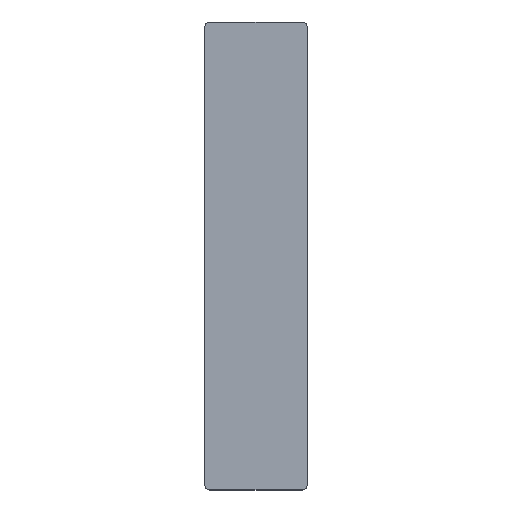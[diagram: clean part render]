
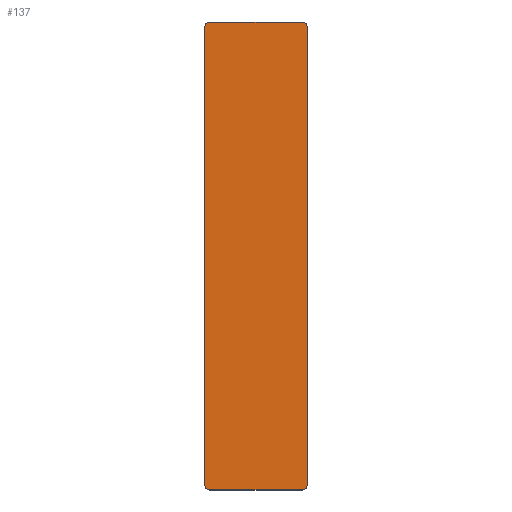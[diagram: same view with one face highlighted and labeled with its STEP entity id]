
A CAD part, top view. The second image highlights one B-rep face of the part: STEP entity #137.
In plain terms, the highlighted planar face has unit normal (0, 0, 1).
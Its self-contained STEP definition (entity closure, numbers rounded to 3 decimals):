
#21 = EDGE_CURVE('',#22,#24,#26,.T.);
#22 = VERTEX_POINT('',#23);
#23 = CARTESIAN_POINT('',(-10.5,-47.,-10.25));
#24 = VERTEX_POINT('',#25);
#25 = CARTESIAN_POINT('',(-10.5,47.,-10.25));
#26 = SURFACE_CURVE('',#27,(#31,#43),.PCURVE_S1.);
#27 = LINE('',#28,#29);
#28 = CARTESIAN_POINT('',(-10.5,-48.,-10.25));
#29 = VECTOR('',#30,1.);
#30 = DIRECTION('',(0.,1.,0.));
#31 = PCURVE('',#32,#37);
#32 = PLANE('',#33);
#33 = AXIS2_PLACEMENT_3D('',#34,#35,#36);
#34 = CARTESIAN_POINT('',(-10.5,-48.,-10.35));
#35 = DIRECTION('',(1.,0.,0.));
#36 = DIRECTION('',(0.,0.,1.));
#37 = DEFINITIONAL_REPRESENTATION('',(#38),#42);
#38 = LINE('',#39,#40);
#39 = CARTESIAN_POINT('',(0.1,0.));
#40 = VECTOR('',#41,1.);
#41 = DIRECTION('',(0.,-1.));
#42 = ( GEOMETRIC_REPRESENTATION_CONTEXT(2) 
PARAMETRIC_REPRESENTATION_CONTEXT() REPRESENTATION_CONTEXT('2D SPACE',''
  ) );
#43 = PCURVE('',#44,#49);
#44 = PLANE('',#45);
#45 = AXIS2_PLACEMENT_3D('',#46,#47,#48);
#46 = CARTESIAN_POINT('',(-10.5,-48.,-10.25));
#47 = DIRECTION('',(0.,0.,1.));
#48 = DIRECTION('',(1.,0.,-0.));
#49 = DEFINITIONAL_REPRESENTATION('',(#50),#54);
#50 = LINE('',#51,#52);
#51 = CARTESIAN_POINT('',(0.,0.));
#52 = VECTOR('',#53,1.);
#53 = DIRECTION('',(0.,1.));
#54 = ( GEOMETRIC_REPRESENTATION_CONTEXT(2) 
PARAMETRIC_REPRESENTATION_CONTEXT() REPRESENTATION_CONTEXT('2D SPACE',''
  ) );
#72 = CYLINDRICAL_SURFACE('',#73,1.);
#73 = AXIS2_PLACEMENT_3D('',#74,#75,#76);
#74 = CARTESIAN_POINT('',(-9.5,-47.,-10.35));
#75 = DIRECTION('',(0.,0.,1.));
#76 = DIRECTION('',(-1.,-0.,0.));
#126 = CYLINDRICAL_SURFACE('',#127,1.);
#127 = AXIS2_PLACEMENT_3D('',#128,#129,#130);
#128 = CARTESIAN_POINT('',(-9.5,47.,-10.35));
#129 = DIRECTION('',(0.,0.,1.));
#130 = DIRECTION('',(-1.,-0.,0.));
#137 = ADVANCED_FACE('',(#138),#44,.T.);
#138 = FACE_BOUND('',#139,.T.);
#139 = EDGE_LOOP('',(#140,#141,#165,#193,#226,#254,#283,#311));
#140 = ORIENTED_EDGE('',*,*,#21,.F.);
#141 = ORIENTED_EDGE('',*,*,#142,.T.);
#142 = EDGE_CURVE('',#22,#143,#145,.T.);
#143 = VERTEX_POINT('',#144);
#144 = CARTESIAN_POINT('',(-9.5,-48.,-10.25));
#145 = SURFACE_CURVE('',#146,(#151,#158),.PCURVE_S1.);
#146 = CIRCLE('',#147,1.);
#147 = AXIS2_PLACEMENT_3D('',#148,#149,#150);
#148 = CARTESIAN_POINT('',(-9.5,-47.,-10.25));
#149 = DIRECTION('',(0.,0.,1.));
#150 = DIRECTION('',(0.,-1.,0.));
#151 = PCURVE('',#44,#152);
#152 = DEFINITIONAL_REPRESENTATION('',(#153),#157);
#153 = CIRCLE('',#154,1.);
#154 = AXIS2_PLACEMENT_2D('',#155,#156);
#155 = CARTESIAN_POINT('',(1.,1.));
#156 = DIRECTION('',(0.,-1.));
#157 = ( GEOMETRIC_REPRESENTATION_CONTEXT(2) 
PARAMETRIC_REPRESENTATION_CONTEXT() REPRESENTATION_CONTEXT('2D SPACE',''
  ) );
#158 = PCURVE('',#72,#159);
#159 = DEFINITIONAL_REPRESENTATION('',(#160),#164);
#160 = LINE('',#161,#162);
#161 = CARTESIAN_POINT('',(-4.712,0.1));
#162 = VECTOR('',#163,1.);
#163 = DIRECTION('',(1.,0.));
#164 = ( GEOMETRIC_REPRESENTATION_CONTEXT(2) 
PARAMETRIC_REPRESENTATION_CONTEXT() REPRESENTATION_CONTEXT('2D SPACE',''
  ) );
#165 = ORIENTED_EDGE('',*,*,#166,.T.);
#166 = EDGE_CURVE('',#143,#167,#169,.T.);
#167 = VERTEX_POINT('',#168);
#168 = CARTESIAN_POINT('',(9.5,-48.,-10.25));
#169 = SURFACE_CURVE('',#170,(#174,#181),.PCURVE_S1.);
#170 = LINE('',#171,#172);
#171 = CARTESIAN_POINT('',(-10.5,-48.,-10.25));
#172 = VECTOR('',#173,1.);
#173 = DIRECTION('',(1.,0.,0.));
#174 = PCURVE('',#44,#175);
#175 = DEFINITIONAL_REPRESENTATION('',(#176),#180);
#176 = LINE('',#177,#178);
#177 = CARTESIAN_POINT('',(0.,0.));
#178 = VECTOR('',#179,1.);
#179 = DIRECTION('',(1.,0.));
#180 = ( GEOMETRIC_REPRESENTATION_CONTEXT(2) 
PARAMETRIC_REPRESENTATION_CONTEXT() REPRESENTATION_CONTEXT('2D SPACE',''
  ) );
#181 = PCURVE('',#182,#187);
#182 = PLANE('',#183);
#183 = AXIS2_PLACEMENT_3D('',#184,#185,#186);
#184 = CARTESIAN_POINT('',(-10.5,-48.,-10.35));
#185 = DIRECTION('',(0.,1.,0.));
#186 = DIRECTION('',(0.,-0.,1.));
#187 = DEFINITIONAL_REPRESENTATION('',(#188),#192);
#188 = LINE('',#189,#190);
#189 = CARTESIAN_POINT('',(0.1,0.));
#190 = VECTOR('',#191,1.);
#191 = DIRECTION('',(0.,1.));
#192 = ( GEOMETRIC_REPRESENTATION_CONTEXT(2) 
PARAMETRIC_REPRESENTATION_CONTEXT() REPRESENTATION_CONTEXT('2D SPACE',''
  ) );
#193 = ORIENTED_EDGE('',*,*,#194,.F.);
#194 = EDGE_CURVE('',#195,#167,#197,.T.);
#195 = VERTEX_POINT('',#196);
#196 = CARTESIAN_POINT('',(10.5,-47.,-10.25));
#197 = SURFACE_CURVE('',#198,(#203,#214),.PCURVE_S1.);
#198 = CIRCLE('',#199,1.);
#199 = AXIS2_PLACEMENT_3D('',#200,#201,#202);
#200 = CARTESIAN_POINT('',(9.5,-47.,-10.25));
#201 = DIRECTION('',(-0.,-0.,-1.));
#202 = DIRECTION('',(0.,-1.,0.));
#203 = PCURVE('',#44,#204);
#204 = DEFINITIONAL_REPRESENTATION('',(#205),#213);
#205 = ( BOUNDED_CURVE() B_SPLINE_CURVE(2,(#206,#207,#208,#209,#210,#211
,#212),.UNSPECIFIED.,.T.,.F.) B_SPLINE_CURVE_WITH_KNOTS((1,2,2,2,2,1),(
    -2.094,0.,2.094,4.189,6.283,
8.378),.UNSPECIFIED.) CURVE() GEOMETRIC_REPRESENTATION_ITEM() 
RATIONAL_B_SPLINE_CURVE((1.,0.5,1.,0.5,1.,0.5,1.)) REPRESENTATION_ITEM(
  '') );
#206 = CARTESIAN_POINT('',(20.,0.));
#207 = CARTESIAN_POINT('',(18.268,0.));
#208 = CARTESIAN_POINT('',(19.134,1.5));
#209 = CARTESIAN_POINT('',(20.,3.));
#210 = CARTESIAN_POINT('',(20.866,1.5));
#211 = CARTESIAN_POINT('',(21.732,0.));
#212 = CARTESIAN_POINT('',(20.,0.));
#213 = ( GEOMETRIC_REPRESENTATION_CONTEXT(2) 
PARAMETRIC_REPRESENTATION_CONTEXT() REPRESENTATION_CONTEXT('2D SPACE',''
  ) );
#214 = PCURVE('',#215,#220);
#215 = CYLINDRICAL_SURFACE('',#216,1.);
#216 = AXIS2_PLACEMENT_3D('',#217,#218,#219);
#217 = CARTESIAN_POINT('',(9.5,-47.,-10.35));
#218 = DIRECTION('',(0.,0.,1.));
#219 = DIRECTION('',(1.,0.,-0.));
#220 = DEFINITIONAL_REPRESENTATION('',(#221),#225);
#221 = LINE('',#222,#223);
#222 = CARTESIAN_POINT('',(10.996,0.1));
#223 = VECTOR('',#224,1.);
#224 = DIRECTION('',(-1.,0.));
#225 = ( GEOMETRIC_REPRESENTATION_CONTEXT(2) 
PARAMETRIC_REPRESENTATION_CONTEXT() REPRESENTATION_CONTEXT('2D SPACE',''
  ) );
#226 = ORIENTED_EDGE('',*,*,#227,.T.);
#227 = EDGE_CURVE('',#195,#228,#230,.T.);
#228 = VERTEX_POINT('',#229);
#229 = CARTESIAN_POINT('',(10.5,47.,-10.25));
#230 = SURFACE_CURVE('',#231,(#235,#242),.PCURVE_S1.);
#231 = LINE('',#232,#233);
#232 = CARTESIAN_POINT('',(10.5,-48.,-10.25));
#233 = VECTOR('',#234,1.);
#234 = DIRECTION('',(0.,1.,0.));
#235 = PCURVE('',#44,#236);
#236 = DEFINITIONAL_REPRESENTATION('',(#237),#241);
#237 = LINE('',#238,#239);
#238 = CARTESIAN_POINT('',(21.,0.));
#239 = VECTOR('',#240,1.);
#240 = DIRECTION('',(0.,1.));
#241 = ( GEOMETRIC_REPRESENTATION_CONTEXT(2) 
PARAMETRIC_REPRESENTATION_CONTEXT() REPRESENTATION_CONTEXT('2D SPACE',''
  ) );
#242 = PCURVE('',#243,#248);
#243 = PLANE('',#244);
#244 = AXIS2_PLACEMENT_3D('',#245,#246,#247);
#245 = CARTESIAN_POINT('',(10.5,-48.,-10.35));
#246 = DIRECTION('',(1.,0.,0.));
#247 = DIRECTION('',(0.,0.,1.));
#248 = DEFINITIONAL_REPRESENTATION('',(#249),#253);
#249 = LINE('',#250,#251);
#250 = CARTESIAN_POINT('',(0.1,0.));
#251 = VECTOR('',#252,1.);
#252 = DIRECTION('',(0.,-1.));
#253 = ( GEOMETRIC_REPRESENTATION_CONTEXT(2) 
PARAMETRIC_REPRESENTATION_CONTEXT() REPRESENTATION_CONTEXT('2D SPACE',''
  ) );
#254 = ORIENTED_EDGE('',*,*,#255,.T.);
#255 = EDGE_CURVE('',#228,#256,#258,.T.);
#256 = VERTEX_POINT('',#257);
#257 = CARTESIAN_POINT('',(9.5,48.,-10.25));
#258 = SURFACE_CURVE('',#259,(#264,#271),.PCURVE_S1.);
#259 = CIRCLE('',#260,1.);
#260 = AXIS2_PLACEMENT_3D('',#261,#262,#263);
#261 = CARTESIAN_POINT('',(9.5,47.,-10.25));
#262 = DIRECTION('',(0.,0.,1.));
#263 = DIRECTION('',(0.,-1.,0.));
#264 = PCURVE('',#44,#265);
#265 = DEFINITIONAL_REPRESENTATION('',(#266),#270);
#266 = CIRCLE('',#267,1.);
#267 = AXIS2_PLACEMENT_2D('',#268,#269);
#268 = CARTESIAN_POINT('',(20.,95.));
#269 = DIRECTION('',(0.,-1.));
#270 = ( GEOMETRIC_REPRESENTATION_CONTEXT(2) 
PARAMETRIC_REPRESENTATION_CONTEXT() REPRESENTATION_CONTEXT('2D SPACE',''
  ) );
#271 = PCURVE('',#272,#277);
#272 = CYLINDRICAL_SURFACE('',#273,1.);
#273 = AXIS2_PLACEMENT_3D('',#274,#275,#276);
#274 = CARTESIAN_POINT('',(9.5,47.,-10.35));
#275 = DIRECTION('',(0.,0.,1.));
#276 = DIRECTION('',(1.,0.,-0.));
#277 = DEFINITIONAL_REPRESENTATION('',(#278),#282);
#278 = LINE('',#279,#280);
#279 = CARTESIAN_POINT('',(-1.571,0.1));
#280 = VECTOR('',#281,1.);
#281 = DIRECTION('',(1.,0.));
#282 = ( GEOMETRIC_REPRESENTATION_CONTEXT(2) 
PARAMETRIC_REPRESENTATION_CONTEXT() REPRESENTATION_CONTEXT('2D SPACE',''
  ) );
#283 = ORIENTED_EDGE('',*,*,#284,.F.);
#284 = EDGE_CURVE('',#285,#256,#287,.T.);
#285 = VERTEX_POINT('',#286);
#286 = CARTESIAN_POINT('',(-9.5,48.,-10.25));
#287 = SURFACE_CURVE('',#288,(#292,#299),.PCURVE_S1.);
#288 = LINE('',#289,#290);
#289 = CARTESIAN_POINT('',(-10.5,48.,-10.25));
#290 = VECTOR('',#291,1.);
#291 = DIRECTION('',(1.,0.,0.));
#292 = PCURVE('',#44,#293);
#293 = DEFINITIONAL_REPRESENTATION('',(#294),#298);
#294 = LINE('',#295,#296);
#295 = CARTESIAN_POINT('',(0.,96.));
#296 = VECTOR('',#297,1.);
#297 = DIRECTION('',(1.,0.));
#298 = ( GEOMETRIC_REPRESENTATION_CONTEXT(2) 
PARAMETRIC_REPRESENTATION_CONTEXT() REPRESENTATION_CONTEXT('2D SPACE',''
  ) );
#299 = PCURVE('',#300,#305);
#300 = PLANE('',#301);
#301 = AXIS2_PLACEMENT_3D('',#302,#303,#304);
#302 = CARTESIAN_POINT('',(-10.5,48.,-10.35));
#303 = DIRECTION('',(0.,1.,0.));
#304 = DIRECTION('',(0.,-0.,1.));
#305 = DEFINITIONAL_REPRESENTATION('',(#306),#310);
#306 = LINE('',#307,#308);
#307 = CARTESIAN_POINT('',(0.1,0.));
#308 = VECTOR('',#309,1.);
#309 = DIRECTION('',(0.,1.));
#310 = ( GEOMETRIC_REPRESENTATION_CONTEXT(2) 
PARAMETRIC_REPRESENTATION_CONTEXT() REPRESENTATION_CONTEXT('2D SPACE',''
  ) );
#311 = ORIENTED_EDGE('',*,*,#312,.F.);
#312 = EDGE_CURVE('',#24,#285,#313,.T.);
#313 = SURFACE_CURVE('',#314,(#319,#330),.PCURVE_S1.);
#314 = CIRCLE('',#315,1.);
#315 = AXIS2_PLACEMENT_3D('',#316,#317,#318);
#316 = CARTESIAN_POINT('',(-9.5,47.,-10.25));
#317 = DIRECTION('',(-0.,-0.,-1.));
#318 = DIRECTION('',(0.,-1.,0.));
#319 = PCURVE('',#44,#320);
#320 = DEFINITIONAL_REPRESENTATION('',(#321),#329);
#321 = ( BOUNDED_CURVE() B_SPLINE_CURVE(2,(#322,#323,#324,#325,#326,#327
,#328),.UNSPECIFIED.,.T.,.F.) B_SPLINE_CURVE_WITH_KNOTS((1,2,2,2,2,1),(
    -2.094,0.,2.094,4.189,6.283,
8.378),.UNSPECIFIED.) CURVE() GEOMETRIC_REPRESENTATION_ITEM() 
RATIONAL_B_SPLINE_CURVE((1.,0.5,1.,0.5,1.,0.5,1.)) REPRESENTATION_ITEM(
  '') );
#322 = CARTESIAN_POINT('',(1.,94.));
#323 = CARTESIAN_POINT('',(-0.732,94.));
#324 = CARTESIAN_POINT('',(0.134,95.5));
#325 = CARTESIAN_POINT('',(1.,97.));
#326 = CARTESIAN_POINT('',(1.866,95.5));
#327 = CARTESIAN_POINT('',(2.732,94.));
#328 = CARTESIAN_POINT('',(1.,94.));
#329 = ( GEOMETRIC_REPRESENTATION_CONTEXT(2) 
PARAMETRIC_REPRESENTATION_CONTEXT() REPRESENTATION_CONTEXT('2D SPACE',''
  ) );
#330 = PCURVE('',#126,#331);
#331 = DEFINITIONAL_REPRESENTATION('',(#332),#336);
#332 = LINE('',#333,#334);
#333 = CARTESIAN_POINT('',(7.854,0.1));
#334 = VECTOR('',#335,1.);
#335 = DIRECTION('',(-1.,0.));
#336 = ( GEOMETRIC_REPRESENTATION_CONTEXT(2) 
PARAMETRIC_REPRESENTATION_CONTEXT() REPRESENTATION_CONTEXT('2D SPACE',''
  ) );
